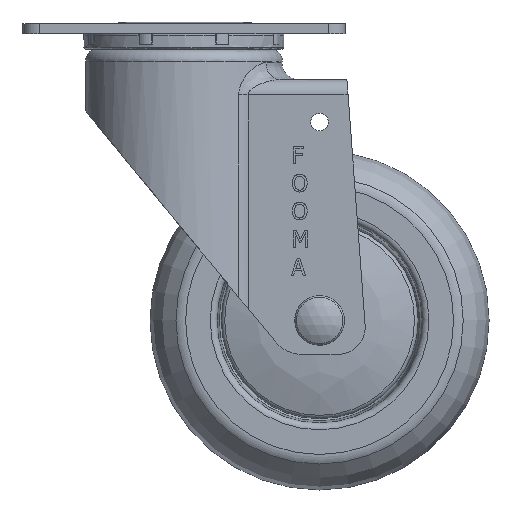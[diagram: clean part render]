
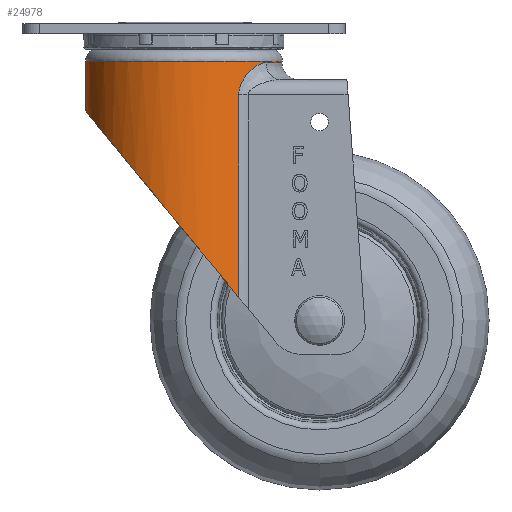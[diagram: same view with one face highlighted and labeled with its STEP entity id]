
A CAD part, front view. The second image highlights one B-rep face of the part: STEP entity #24978.
In plain terms, the highlighted cylindrical face has radius 29 mm (diameter 58 mm), a full revolution.
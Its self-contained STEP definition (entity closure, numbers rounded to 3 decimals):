
#190=ELLIPSE('',#26675,45.663,29.);
#419=B_SPLINE_CURVE_WITH_KNOTS('',3,(#43430,#43431,#43432,#43433,#43434,
#43435,#43436,#43437,#43438,#43439,#43440,#43441,#43442,#43443),
 .UNSPECIFIED.,.F.,.F.,(4,2,2,2,2,2,4),(0.,3.172,6.345,
11.548,12.064,15.638,17.872),
 .UNSPECIFIED.);
#420=B_SPLINE_CURVE_WITH_KNOTS('',3,(#43450,#43451,#43452,#43453,#43454,
#43455,#43456,#43457,#43458,#43459,#43460,#43461,#43462,#43463,#43464,#43465,
#43466,#43467,#43468,#43469,#43470,#43471,#43472,#43473,#43474,#43475,#43476,
#43477),.UNSPECIFIED.,.F.,.F.,(4,3,3,3,3,3,3,3,3,4),(0.,3.104,
4.68,8.022,9.875,12.603,13.405,
15.611,16.99,17.852),.UNSPECIFIED.);
#2933=LINE('',#43445,#5580);
#2934=LINE('',#43449,#5581);
#5580=VECTOR('',#32447,59.639);
#5581=VECTOR('',#32450,59.639);
#5882=CYLINDRICAL_SURFACE('',#26673,29.);
#6330=FACE_BOUND('',#9027,.T.);
#7512=FACE_OUTER_BOUND('',#9026,.T.);
#9026=EDGE_LOOP('',(#21893));
#9027=EDGE_LOOP('',(#21894,#21895,#21896,#21897,#21898,#21899));
#9649=CIRCLE('',#26672,29.);
#9650=CIRCLE('',#26674,29.);
#11942=VERTEX_POINT('',#43423);
#11943=VERTEX_POINT('',#43426);
#11944=VERTEX_POINT('',#43427);
#11945=VERTEX_POINT('',#43429);
#11946=VERTEX_POINT('',#43444);
#11947=VERTEX_POINT('',#43446);
#11948=VERTEX_POINT('',#43448);
#15344=EDGE_CURVE('',#11942,#11942,#9649,.T.);
#15345=EDGE_CURVE('',#11943,#11944,#9650,.T.);
#15346=EDGE_CURVE('',#11945,#11943,#419,.T.);
#15347=EDGE_CURVE('',#11946,#11945,#2933,.T.);
#15348=EDGE_CURVE('',#11946,#11947,#190,.T.);
#15349=EDGE_CURVE('',#11948,#11947,#2934,.T.);
#15350=EDGE_CURVE('',#11944,#11948,#420,.T.);
#21893=ORIENTED_EDGE('',*,*,#15344,.T.);
#21894=ORIENTED_EDGE('',*,*,#15345,.F.);
#21895=ORIENTED_EDGE('',*,*,#15346,.F.);
#21896=ORIENTED_EDGE('',*,*,#15347,.F.);
#21897=ORIENTED_EDGE('',*,*,#15348,.T.);
#21898=ORIENTED_EDGE('',*,*,#15349,.F.);
#21899=ORIENTED_EDGE('',*,*,#15350,.F.);
#24978=ADVANCED_FACE('',(#7512,#6330),#5882,.T.);
#26672=AXIS2_PLACEMENT_3D('',#43424,#32441,#32442);
#26673=AXIS2_PLACEMENT_3D('',#43425,#32443,#32444);
#26674=AXIS2_PLACEMENT_3D('',#43428,#32445,#32446);
#26675=AXIS2_PLACEMENT_3D('',#43447,#32448,#32449);
#32441=DIRECTION('center_axis',(0.,0.,-1.));
#32442=DIRECTION('ref_axis',(-1.,0.,0.));
#32443=DIRECTION('center_axis',(0.,0.,-1.));
#32444=DIRECTION('ref_axis',(-1.,0.,0.));
#32445=DIRECTION('center_axis',(0.,0.,-1.));
#32446=DIRECTION('ref_axis',(1.,0.,0.));
#32447=DIRECTION('',(0.,0.,1.));
#32448=DIRECTION('center_axis',(0.772,0.,0.635));
#32449=DIRECTION('ref_axis',(-0.635,0.,0.772));
#32450=DIRECTION('',(0.,0.,-1.));
#43423=CARTESIAN_POINT('',(8.37,61.675,-5.25));
#43424=CARTESIAN_POINT('Origin',(-20.63,61.675,-5.25));
#43425=CARTESIAN_POINT('Origin',(-20.63,61.675,-54.75));
#43426=CARTESIAN_POINT('',(3.561,77.667,-5.75));
#43427=CARTESIAN_POINT('',(3.561,45.682,-5.75));
#43428=CARTESIAN_POINT('Origin',(-20.63,61.675,-5.75));
#43429=CARTESIAN_POINT('',(-4.493,85.77,-15.25));
#43430=CARTESIAN_POINT('Ctrl Pts',(-4.493,85.77,-15.25));
#43431=CARTESIAN_POINT('Ctrl Pts',(-4.493,85.77,-14.192));
#43432=CARTESIAN_POINT('Ctrl Pts',(-4.253,85.612,-13.145));
#43433=CARTESIAN_POINT('Ctrl Pts',(-3.513,85.088,-11.314));
#43434=CARTESIAN_POINT('Ctrl Pts',(-3.017,84.723,-10.5));
#43435=CARTESIAN_POINT('Ctrl Pts',(-1.628,83.61,-8.639));
#43436=CARTESIAN_POINT('Ctrl Pts',(-0.66,82.748,-7.726));
#43437=CARTESIAN_POINT('Ctrl Pts',(0.381,81.663,-6.984));
#43438=CARTESIAN_POINT('Ctrl Pts',(0.475,81.564,-6.92));
#43439=CARTESIAN_POINT('Ctrl Pts',(1.216,80.77,-6.426));
#43440=CARTESIAN_POINT('Ctrl Pts',(1.855,80.017,-6.108));
#43441=CARTESIAN_POINT('Ctrl Pts',(2.843,78.715,-5.811));
#43442=CARTESIAN_POINT('Ctrl Pts',(3.211,78.197,-5.75));
#43443=CARTESIAN_POINT('Ctrl Pts',(3.561,77.667,-5.75));
#43444=CARTESIAN_POINT('',(-4.493,85.77,-74.889));
#43445=CARTESIAN_POINT('',(-4.493,85.77,-74.889));
#43446=CARTESIAN_POINT('',(-4.493,37.579,-74.889));
#43447=CARTESIAN_POINT('Origin',(-20.63,61.675,-55.261));
#43448=CARTESIAN_POINT('',(-4.493,37.579,-15.25));
#43449=CARTESIAN_POINT('',(-4.493,37.579,-15.25));
#43450=CARTESIAN_POINT('Ctrl Pts',(3.561,45.682,-5.75));
#43451=CARTESIAN_POINT('Ctrl Pts',(3.075,44.946,-5.75));
#43452=CARTESIAN_POINT('Ctrl Pts',(2.555,44.233,-5.866));
#43453=CARTESIAN_POINT('Ctrl Pts',(2.015,43.558,-6.082));
#43454=CARTESIAN_POINT('Ctrl Pts',(1.74,43.215,-6.191));
#43455=CARTESIAN_POINT('Ctrl Pts',(1.461,42.882,-6.326));
#43456=CARTESIAN_POINT('Ctrl Pts',(1.178,42.559,-6.484));
#43457=CARTESIAN_POINT('Ctrl Pts',(0.578,41.875,-6.819));
#43458=CARTESIAN_POINT('Ctrl Pts',(-0.036,41.24,
-7.254));
#43459=CARTESIAN_POINT('Ctrl Pts',(-0.643,40.662,
-7.79));
#43460=CARTESIAN_POINT('Ctrl Pts',(-0.98,40.342,
-8.087));
#43461=CARTESIAN_POINT('Ctrl Pts',(-1.315,40.039,-8.415));
#43462=CARTESIAN_POINT('Ctrl Pts',(-1.644,39.754,-8.773));
#43463=CARTESIAN_POINT('Ctrl Pts',(-2.128,39.334,-9.301));
#43464=CARTESIAN_POINT('Ctrl Pts',(-2.597,38.957,-9.892));
#43465=CARTESIAN_POINT('Ctrl Pts',(-3.018,38.635,-10.559));
#43466=CARTESIAN_POINT('Ctrl Pts',(-3.142,38.54,-10.755));
#43467=CARTESIAN_POINT('Ctrl Pts',(-3.262,38.45,-10.958));
#43468=CARTESIAN_POINT('Ctrl Pts',(-3.377,38.365,-11.167));
#43469=CARTESIAN_POINT('Ctrl Pts',(-3.693,38.131,-11.744));
#43470=CARTESIAN_POINT('Ctrl Pts',(-3.973,37.935,-12.38));
#43471=CARTESIAN_POINT('Ctrl Pts',(-4.172,37.798,-13.059));
#43472=CARTESIAN_POINT('Ctrl Pts',(-4.296,37.712,-13.483));
#43473=CARTESIAN_POINT('Ctrl Pts',(-4.391,37.648,-13.93));
#43474=CARTESIAN_POINT('Ctrl Pts',(-4.443,37.612,-14.388));
#43475=CARTESIAN_POINT('Ctrl Pts',(-4.477,37.59,-14.674));
#43476=CARTESIAN_POINT('Ctrl Pts',(-4.493,37.579,-14.963));
#43477=CARTESIAN_POINT('Ctrl Pts',(-4.493,37.579,-15.25));
